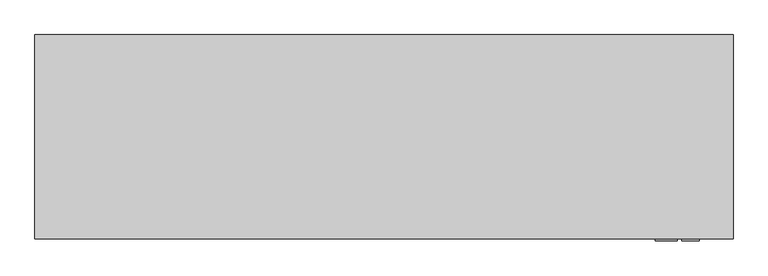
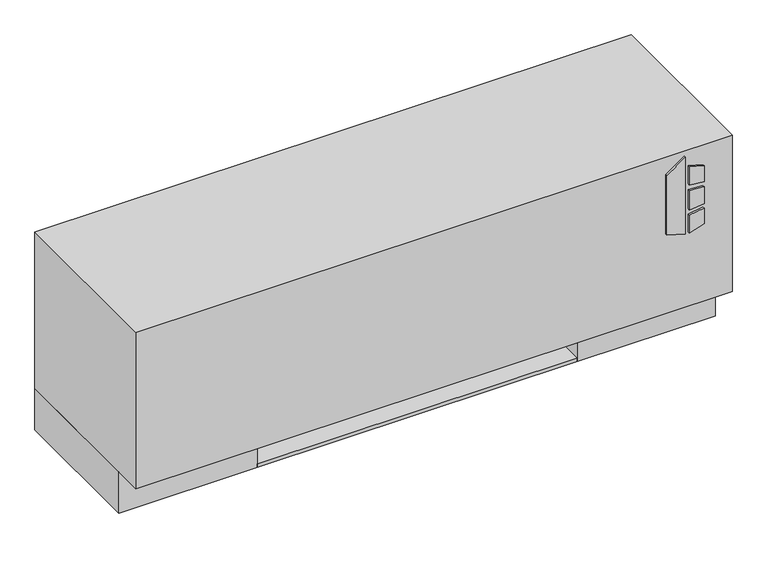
"""IFC4 building model written with IfcOpenShell, lengths in millimetres: proxy geometry, Exposed_Low_Boy_Fan_Coil_Unit Fan_-_LXA_-_IEC_-_2-Pipe_RH_2022 : Size 02 - 277v/60Hz/1Ph - 2/1 Coil."""

from ifc_helpers import new_model, si_unit, point, frame, frame_2d, origin, origin_with_axes, place, context, project, spatial, polyline, circle_curve, trimmed, segment, composite_curve, outline, extrude, faceted_brep, source, transform, mapped, element, save


def mechanical_equipment_87d96264(model_context):
    return source(origin(), model_context, "Body", "SolidModel", [
        faceted_brep([(1130.3, -266.7, 114.3), (952.5, -266.7, 114.3), (952.5, -520.7, 114.3), (1130.3, -520.7, 114.3), (955.675, -269.875, 114.3), (1127.125, -269.875, 114.3), (1127.125, -517.525, 114.3), (955.675, -517.525, 114.3), (1130.3, -266.7, 88.9), (1130.3, -520.7, 88.9), (952.5, -520.7, 88.9), (952.5, -266.7, 88.9), (1127.125, -269.875, 92.0747888), (955.675, -269.875, 92.0747888), (955.675, -517.525, 92.0747888), (1127.125, -517.525, 92.0747888)], [[[0, 1, 2, 3], [4, 5, 6, 7]], [[8, 9, 10, 11]], [[1, 0, 8, 11]], [[2, 1, 11, 10]], [[3, 2, 10, 9]], [[0, 3, 9, 8]], [[12, 13, 14, 15]], [[13, 12, 5, 4]], [[14, 13, 4, 7]], [[15, 14, 7, 6]], [[12, 15, 6, 5]]]),
        extrude(outline(composite_curve([segment(trimmed(circle_curve(frame_2d((1041.4, -393.7)), 9.525), [point((1031.875, -393.7))], [point((1050.925, -393.7))], False, "CARTESIAN"), True, "CONTINUOUS"), segment(trimmed(circle_curve(frame_2d((1041.4, -393.7)), 9.525), [point((1050.925, -393.7))], [point((1031.875, -393.7))], False, "CARTESIAN"), True, "CONTINUOUS")], self_intersect=False)), frame((0.0, 0.0, 63.5), z_axis=(0.0, 0.0, 1.0), x_axis=(1.0, 0.0, 0.0)), (0.0, 0.0, 1.0), 25.4),
        extrude(outline(polyline([(222.6730703, 1077.9868862), (212.725, 1110.1602728), (354.8959244, 1110.1602728), (331.8739183, 1077.9868862), (222.6730703, 1077.9868862)])), frame((0.0, -546.1, 0.0), z_axis=(0.0, 1.0, 0.0), x_axis=(0.0, 0.0, 1.0)), (0.0, 0.0, 1.0), 3.175),
        extrude(outline(polyline([(301.6723557, 1116.9186058), (298.4699632, 1143.0), (327.6988042, 1143.0), (335.7632193, 1116.9186058), (301.6723557, 1116.9186058)])), frame((0.0, -546.1, 0.0), z_axis=(0.0, 1.0, 0.0), x_axis=(0.0, 0.0, 1.0)), (0.0, 0.0, 1.0), 3.175),
        extrude(outline(polyline([(249.8088288, 1143.0), (246.1433279, 1116.9186058), (212.725, 1116.9186058), (221.3592372, 1143.0), (249.8088288, 1143.0)])), frame((0.0, -546.1, 0.0), z_axis=(0.0, 1.0, 0.0), x_axis=(0.0, 0.0, 1.0)), (0.0, 0.0, 1.0), 3.175),
        extrude(outline(polyline([(289.1239903, 1143.0), (291.4058166, 1116.9186058), (255.4682681, 1116.9186058), (258.2095331, 1143.0), (289.1239903, 1143.0)])), frame((0.0, -546.1, 0.0), z_axis=(0.0, 1.0, 0.0), x_axis=(0.0, 0.0, 1.0)), (0.0, 0.0, 1.0), 3.175),
        faceted_brep([(1193.8, -238.125, 365.125), (152.4, -238.125, 365.125), (152.4, -542.925, 365.125), (1193.8, -542.925, 365.125), (1193.8, -238.125, 76.2), (1193.8, -542.925, 76.2), (152.4, -542.925, 76.2), (152.4, -238.125, 76.2), (165.1, -238.125, 76.2), (165.1, -517.525, 76.2), (393.7, -517.525, 76.2), (393.7, -238.125, 76.2), (952.5, -238.125, 76.2), (952.5, -517.525, 76.2), (1181.1, -517.525, 76.2), (1181.1, -238.125, 76.2), (1181.1, -238.125, 339.725), (952.5, -238.125, 339.725), (393.7, -238.125, 339.725), (165.1, -238.125, 339.725), (1181.1, -517.525, 339.725), (952.5, -517.525, 339.725), (393.7, -517.525, 339.725), (165.1, -517.525, 339.725)], [[[0, 1, 2, 3]], [[4, 5, 6, 7, 8, 9, 10, 11, 12, 13, 14, 15]], [[1, 0, 4, 15, 16, 17, 12, 11, 18, 19, 8, 7]], [[2, 1, 7, 6]], [[3, 2, 6, 5]], [[0, 3, 5, 4]], [[16, 20, 21, 17]], [[18, 22, 23, 19]], [[17, 21, 13, 12]], [[21, 20, 14, 13]], [[20, 16, 15, 14]], [[19, 23, 9, 8]], [[23, 22, 10, 9]], [[22, 18, 11, 10]]]),
        extrude(outline(polyline([(952.5, -492.125), (393.7, -492.125), (393.7, -244.475), (952.5, -244.475), (952.5, -492.125)])), origin_with_axes(), (0.0, 0.0, 1.0), 6.35),
        extrude(outline(polyline([(952.5, -238.125), (952.5, -244.475), (393.7, -244.475), (393.7, -238.125), (952.5, -238.125)])), origin_with_axes(), (0.0, 0.0, 1.0), 76.2),
        extrude(outline(polyline([(1193.8, -238.125), (1193.8, -492.125), (952.5, -492.125), (952.5, -238.125), (1193.8, -238.125)]), holes=[polyline([(965.2, -485.775), (1181.1, -485.775), (1181.1, -244.475), (965.2, -244.475), (965.2, -485.775)])]), origin_with_axes(), (0.0, 0.0, 1.0), 76.2),
        extrude(outline(polyline([(393.7, -238.125), (393.7, -492.125), (152.4, -492.125), (152.4, -238.125), (393.7, -238.125)]), holes=[polyline([(381.0, -244.475), (165.1, -244.475), (165.1, -485.775), (381.0, -485.775), (381.0, -244.475)])]), origin_with_axes(), (0.0, 0.0, 1.0), 76.2),
        extrude(outline(composite_curve([segment(trimmed(circle_curve(frame_2d((-485.775, 227.0125)), 7.9375), [point((-485.775, 219.075))], [point((-485.775, 234.95))], False, "CARTESIAN"), True, "CONTINUOUS"), segment(trimmed(circle_curve(frame_2d((-485.775, 227.0125)), 7.9375), [point((-485.775, 234.95))], [point((-485.775, 219.075))], False, "CARTESIAN"), True, "CONTINUOUS")], self_intersect=False)), frame((952.5, 0.0, 0.0), z_axis=(1.0, 0.0, 0.0), x_axis=(0.0, 1.0, 0.0)), (0.0, 0.0, 1.0), 50.8),
        extrude(outline(composite_curve([segment(trimmed(circle_curve(frame_2d((-269.875, 273.05)), 7.9375), [point((-269.875, 265.1125))], [point((-269.875, 280.9875))], False, "CARTESIAN"), True, "CONTINUOUS"), segment(trimmed(circle_curve(frame_2d((-269.875, 273.05)), 7.9375), [point((-269.875, 280.9875))], [point((-269.875, 265.1125))], False, "CARTESIAN"), True, "CONTINUOUS")], self_intersect=False)), frame((952.5, 0.0, 0.0), z_axis=(1.0, 0.0, 0.0), x_axis=(0.0, 1.0, 0.0)), (0.0, 0.0, 1.0), 50.8),
    ])


if __name__ == "__main__":
    model = new_model("IFC4")
    model_context = context("Model", 3, world=origin())
    ifc_project = project(units=[si_unit("LENGTHUNIT", "METRE", prefix="MILLI")], contexts=[model_context])
    site = spatial("IfcSite", under=ifc_project)
    building = spatial("IfcBuilding", under=site)
    placement = place(None, origin())
    mechanical_equipment_shape = mechanical_equipment_87d96264(model_context)
    element("IfcBuildingElementProxy", 1, Name="Exposed_Low_Boy_Fan_Coil_Unit Fan_-_LXA_-_IEC_-_2-Pipe_RH_2022 : Size 02 - 277v/60Hz/1Ph - 2/1 Coil", ObjectType="Exposed_Low_Boy_Fan_Coil_Unit Fan_-_LXA_-_IEC_-_2-Pipe_RH_2022 : Size 02 - 277v/60Hz/1Ph - 2/1 Coil", at=placement, inside=building, context=model_context, shape_type="MappedRepresentation", body=[
        mapped(mechanical_equipment_shape, transform((0.0, 0.0, 0.0), x_axis=(1.0, 0.0, 0.0), y_axis=(0.0, 1.0, 0.0), z_axis=(0.0, 0.0, 1.0))),
    ])
    save(model, "model.ifc")
